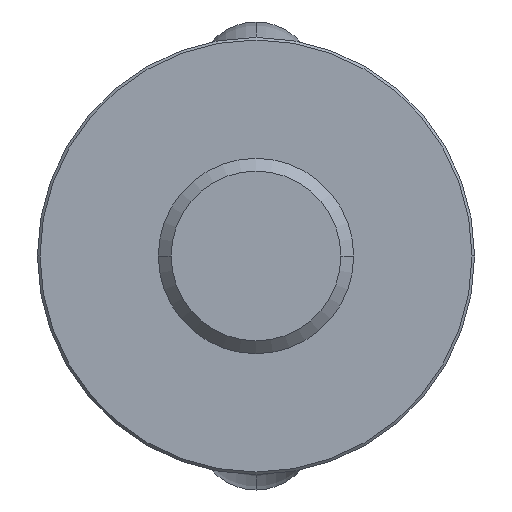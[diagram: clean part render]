
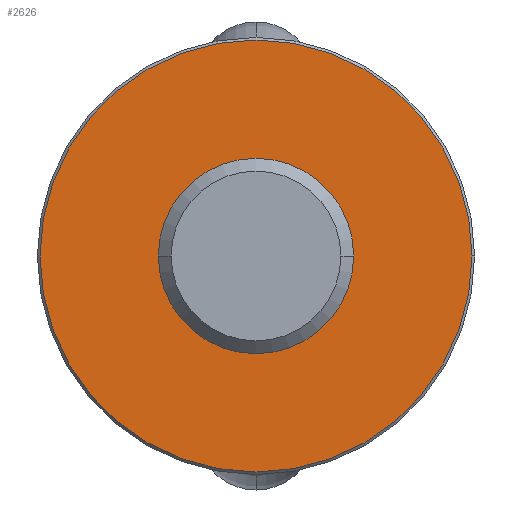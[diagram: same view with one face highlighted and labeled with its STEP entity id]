
A CAD part, front view. The second image highlights one B-rep face of the part: STEP entity #2626.
In plain terms, the highlighted planar face has unit normal (0, -1, 0).
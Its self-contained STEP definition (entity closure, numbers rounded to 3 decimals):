
#5=CARTESIAN_POINT('',(0.,0.,0.));
#6=DIRECTION('',(0.,1.,0.));
#7=DIRECTION('',(1.,0.,0.));
#8=AXIS2_PLACEMENT_3D('',#5,#6,#7);
#14=CARTESIAN_POINT('',(0.,0.,0.));
#15=DIRECTION('',(0.,-1.,0.));
#16=DIRECTION('',(1.,0.,0.));
#17=AXIS2_PLACEMENT_3D('',#14,#15,#16);
#52=CARTESIAN_POINT('',(0.,0.,0.));
#53=DIRECTION('',(0.,-1.,0.));
#54=DIRECTION('',(1.,0.,0.));
#55=AXIS2_PLACEMENT_3D('',#52,#53,#54);
#1980=CARTESIAN_POINT('',(0.,0.,0.));
#1981=DIRECTION('',(0.,1.,0.));
#1982=DIRECTION('',(1.,0.,0.));
#1983=AXIS2_PLACEMENT_3D('',#1980,#1981,#1982);
#2037=CARTESIAN_POINT('',(84.,0.,0.));
#2038=CARTESIAN_POINT('',(-84.,0.,0.));
#2039=VERTEX_POINT('',#2037);
#2040=VERTEX_POINT('',#2038);
#2089=CARTESIAN_POINT('',(38.,0.,0.));
#2091=VERTEX_POINT('',#2089);
#2093=CARTESIAN_POINT('',(-38.,0.,0.));
#2095=VERTEX_POINT('',#2093);
#2609=CARTESIAN_POINT('',(0.,0.,0.));
#2610=DIRECTION('',(0.,-1.,0.));
#2611=DIRECTION('',(-1.,0.,0.));
#2612=AXIS2_PLACEMENT_3D('',#2609,#2610,#2611);
#2613=PLANE('',#2612);
#2615=ORIENTED_EDGE('',*,*,#2614,.F.);
#2617=ORIENTED_EDGE('',*,*,#2616,.T.);
#2618=EDGE_LOOP('',(#2615,#2617));
#2619=FACE_OUTER_BOUND('',#2618,.F.);
#2621=ORIENTED_EDGE('',*,*,#2620,.F.);
#2623=ORIENTED_EDGE('',*,*,#2622,.T.);
#2624=EDGE_LOOP('',(#2621,#2623));
#2625=FACE_BOUND('',#2624,.F.);
#2626=ADVANCED_FACE('',(#2619,#2625),#2613,.T.);
#9=CIRCLE('',#8,38.);
#18=CIRCLE('',#17,38.);
#56=CIRCLE('',#55,84.);
#1984=CIRCLE('',#1983,84.);
#2614=EDGE_CURVE('',#2039,#2040,#56,.T.);
#2616=EDGE_CURVE('',#2039,#2040,#1984,.T.);
#2620=EDGE_CURVE('',#2091,#2095,#9,.T.);
#2622=EDGE_CURVE('',#2091,#2095,#18,.T.);
